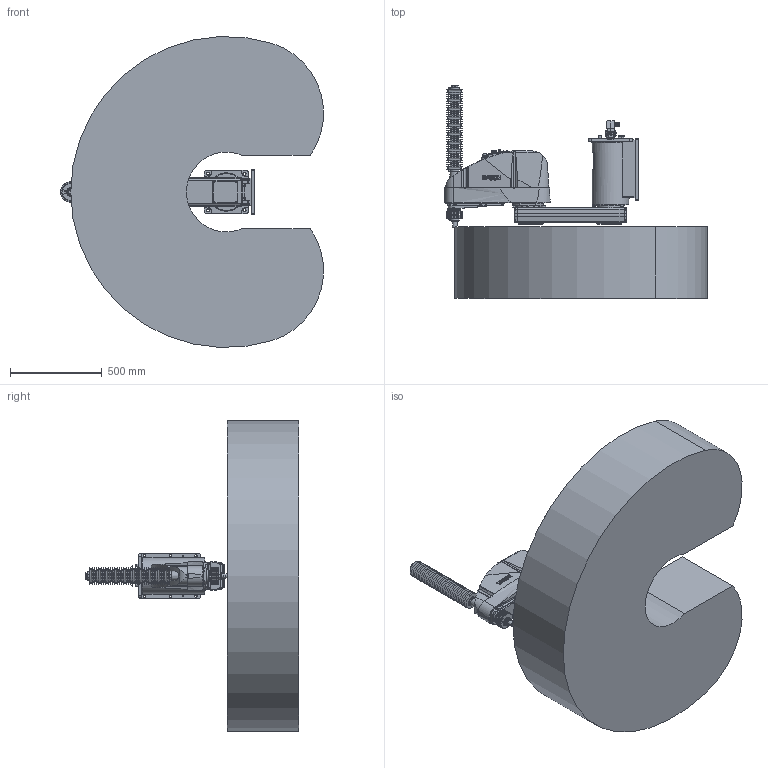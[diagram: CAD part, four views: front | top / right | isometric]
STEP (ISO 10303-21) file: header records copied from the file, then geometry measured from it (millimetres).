
FILE_DESCRIPTION( ( 'STEP AP214' ), '1' );
FILE_NAME( 'C:/Users/9607552/Desktop/GX20-B854CW_langle.stp', '2023-08-01T09:38:55', ( '' ), ( '' ), ' ', 'PARTsolutions', ' ' );
FILE_SCHEMA( ( 'AUTOMOTIVE_DESIGN { 1 0 10303 214 1 1 1 1 }' ) );
Length unit declared in the file: millimetre
Products named in the file (7): GX20-B854CWA-W; _Base cw; _Angle-B; _J1 Arm GX10-450 r/w; _J2 Arm GX10-c; _J3 Arm GX10-c (4); _GX10_20B-29_4
Assembly tree (6 placements, depth 2):
  GX20-B854CWA-W
    _Base cw
    _Angle-B
    _J1 Arm GX10-450 r/w
    _J2 Arm GX10-c
    _J3 Arm GX10-c (4)
    _GX10_20B-29_4
Bounding box: 1435.96 x 1164 x 1698.44 mm (x, y, z)
Volume: 689087308.3 mm3; surface area: 7969764.5 mm2
Topology: 6 solids, 6 shells, 2582 faces, 6342 edges, 4107 vertices
Faces by surface type: plane 1313, cylinder 764, cone 400, torus 67, bspline 37, sphere 1
Full cylindrical faces by diameter (mm): 1.18 x55, 2.5 x2, 3 x32, 3.242 x10, 3.3 x9, 4 x2, 4.2 x2, 4.8 x4, 5.1 x4, 5.34 x4, 5.5 x12, 6 x4, 6.2 x2, 6.647 x2, 6.8 x2, 7 x19, 7.5 x1, 7.59 x4, 8 x4, 8.5 x2, 9 x4, 10 x32, 10.5 x3, 11 x14, 12 x7, 12.25 x1, 13 x8, 14 x20, 14.25 x1, 16 x7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
Entity records: 96808 total; most frequent: CARTESIAN_POINT 17758, DIRECTION 12155, ORIENTED_EDGE 11020, EDGE_CURVE 5510, AXIS2_PLACEMENT_3D 4649, VERTEX_POINT 4003, EDGE_LOOP 3690, FACE_OUTER_BOUND 2947
